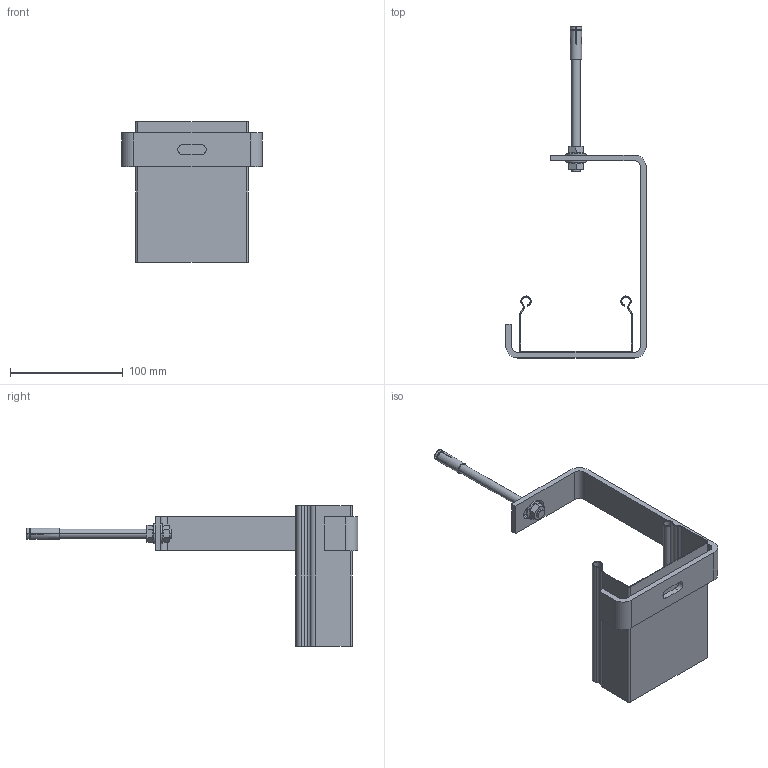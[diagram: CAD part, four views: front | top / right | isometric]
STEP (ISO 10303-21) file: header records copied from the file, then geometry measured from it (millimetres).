
FILE_DESCRIPTION (( 'STEP AP214' ), '1' );
FILE_NAME ('ﾑﾏﾏ+ﾋﾏﾌﾇﾒ(ﾌ).STEP', '2016-10-05T20:09:31', ( '' ), ( '' ), 'SwSTEP 2.0', 'SolidWorks 2016', '' );
FILE_SCHEMA (( 'AUTOMOTIVE_DESIGN' ));
Length unit declared in the file: millimetre
Products named in the file (8): 抔鴈 燴耪譇; Òðóáêà Àíêåðà çàáèâíîãî; 067809 襟8捘_Hexagon Flange Nut DIN 6923 - M8 - N; 064829 ØÏ8-2_˜¯¨«ìª  M8-6gx100 ƒŽ‘’ 22034-76; Ëîòîê Îáðàç_100å50; 050915-050941 旆柉100; ﾑﾏﾏ+ﾋﾏﾌﾇﾒ(ﾌ); ﾀ渼褞 鈞礪粹鵫
Assembly tree (8 placements, depth 3):
  ﾑﾏﾏ+ﾋﾏﾌﾇﾒ(ﾌ)
    050915-050941 旆柉100
    Ëîòîê Îáðàç_100å50
    064829 ØÏ8-2_˜¯¨«ìª  M8-6gx100 ƒŽ‘’ 22034-76
    067809 襟8捘_Hexagon Flange Nut DIN 6923 - M8 - N  x2
    ﾀ渼褞 鈞礪粹鵫
      Òðóáêà Àíêåðà çàáèâíîãî
      抔鴈 燴耪譇
Bounding box: 125 x 294.5 x 125 mm (x, y, z)
Volume: 91381.4 mm3; surface area: 91607.9 mm2
Topology: 7 solids, 7 shells, 246 faces, 595 edges, 364 vertices
Faces by surface type: plane 97, cylinder 67, torus 36, cone 34, bspline 12
Entity records: 7233 total; most frequent: CARTESIAN_POINT 1925, ORIENTED_EDGE 1050, DIRECTION 1035, EDGE_CURVE 525, AXIS2_PLACEMENT_3D 398, VERTEX_POINT 324, LINE 239, VECTOR 239
